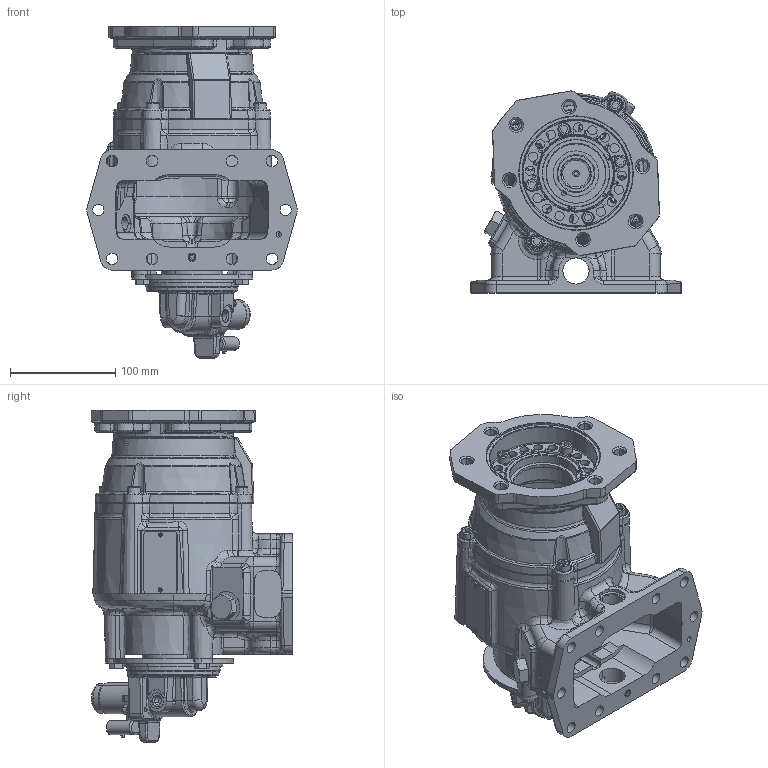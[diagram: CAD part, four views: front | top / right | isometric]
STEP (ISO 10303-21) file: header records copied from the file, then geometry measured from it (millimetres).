
FILE_DESCRIPTION (( 'STEP AP203' ), '1' );
FILE_NAME ('A20-A10XX-HX5PBPX.STEP', '2023-03-29T13:45:05', ( '' ), ( '' ), 'SwSTEP 2.0', 'SolidWorks 2021', '' );
FILE_SCHEMA (( 'CONFIG_CONTROL_DESIGN' ));
Length unit declared in the file: inch
Products named in the file (14): 47T6123_15T43431_DUST CAP INSTALLED; 25T35999TMP; A20-A10XX-HX5PBPX; 19T36588_19T36588; 35T40860; 14T65388DB2; 12T36701; MD1_5Arrangement; SC-301_25T37702; 19T62950; 15T43431_FOR CLAMPS; 15T65391DB3; 47T6123TMP_Solenoid; DropInSolenoidRearCoverAssembly
Assembly tree (21 placements, depth 4):
  A20-A10XX-HX5PBPX
    MD1_5Arrangement
    19T36588_19T36588  x8
    25T35999TMP
    15T65391DB3
    14T65388DB2
    DropInSolenoidRearCoverAssembly
      47T6123TMP_Solenoid
      47T6123_15T43431_DUST CAP INSTALLED
        15T43431_FOR CLAMPS
        19T62950  x2
        12T36701
        SC-301_25T37702
    35T40860
Bounding box: 199.82 x 191.8 x 315.55 mm (x, y, z)
Volume: 1607764.8 mm3; surface area: 461977.7 mm2
Topology: 39 solids, 39 shells, 4441 faces, 11399 edges, 7100 vertices
Faces by surface type: plane 1603, bspline 1322, cylinder 800, cone 406, torus 274, sphere 36
Entity records: 194565 total; most frequent: CARTESIAN_POINT 97296, ORIENTED_EDGE 21826, DIRECTION 17018, EDGE_CURVE 10913, VERTEX_POINT 6868, AXIS2_PLACEMENT_3D 6011, LINE 4996, VECTOR 4996
